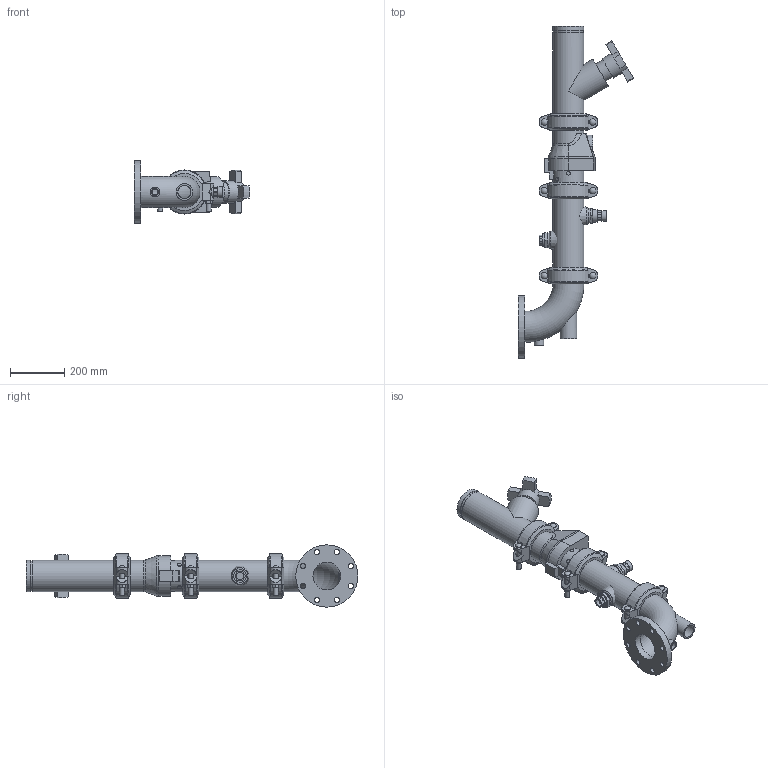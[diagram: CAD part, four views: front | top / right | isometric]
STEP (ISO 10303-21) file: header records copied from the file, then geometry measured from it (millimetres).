
FILE_DESCRIPTION(/* description */ ('VIC DVI PUMP DROP HORZ S/383 (OGSxFLG) (S/924-0.75)','CAx-IF Rec.Pracs.---Representation and Presentation of Product Manufacturing Information (PMI)---4.0---2014-10-13'),/* implementation_level */ '2;1');
FILE_NAME(/* name */ 'C:\Users\kkamble\AppData\Roaming\Autodesk\ApplicationPlugins\Victaulic.Temp\A821\CL 150_Series 383 (OGSxFLG)_924 (0.75)_04.0x04.0 (100x100).stp',/* time_stamp */ '2022-03-16T18:45:17+05:00',/* author */ ('kkamble'),/* organization */ ('Victaulic'),/* preprocessor_version */ 'ST-DEVELOPER v17.2',/* originating_system */ 'Autodesk Inventor 2019',/* authorisation */ '');
FILE_SCHEMA (('AP242_MANAGED_MODEL_BASED_3D_ENGINEERING_MIM_LF { 1 0 10303 442 1 1 4 }'));
Length unit declared in the file: inch
Products named in the file (8): 383_924 (0.75)-04.0x04.0; Pipe-04.0x04.0; 789-04.0; 177N-04.0; 779-04.0; 923-04.0x0.75; 924-04.0x0.75; 100F-04.0
Assembly tree (9 placements, depth 2):
  383_924 (0.75)-04.0x04.0
    177N-04.0  x3
    Pipe-04.0x04.0
    789-04.0
    779-04.0
    923-04.0x0.75
    924-04.0x0.75
    100F-04.0
Bounding box: 423.93 x 1219.2 x 228.6 mm (x, y, z)
Volume: 8349062 mm3; surface area: 1433394.5 mm2
Topology: 9 solids, 9 shells, 533 faces, 1419 edges, 945 vertices
Faces by surface type: plane 306, cylinder 181, torus 21, cone 17, sphere 6, bspline 2
Full cylindrical faces by diameter (mm): 13.716 x2, 17.424 x6, 19.05 x8, 20.93 x1, 23.495 x6, 26.67 x4, 34.29 x1, 38.608 x1, 45.974 x4, 48.26 x1, 55.626 x2, 60.96 x1, 72.39 x1, 82.55 x1, 101.6 x3, 102.26 x5, 110.084 x7, 114.3 x18, 228.6 x1
Entity records: 12084 total; most frequent: CARTESIAN_POINT 2588, DIRECTION 1953, ORIENTED_EDGE 1786, EDGE_CURVE 893, AXIS2_PLACEMENT_3D 748, VERTEX_POINT 601, LINE 457, VECTOR 457
